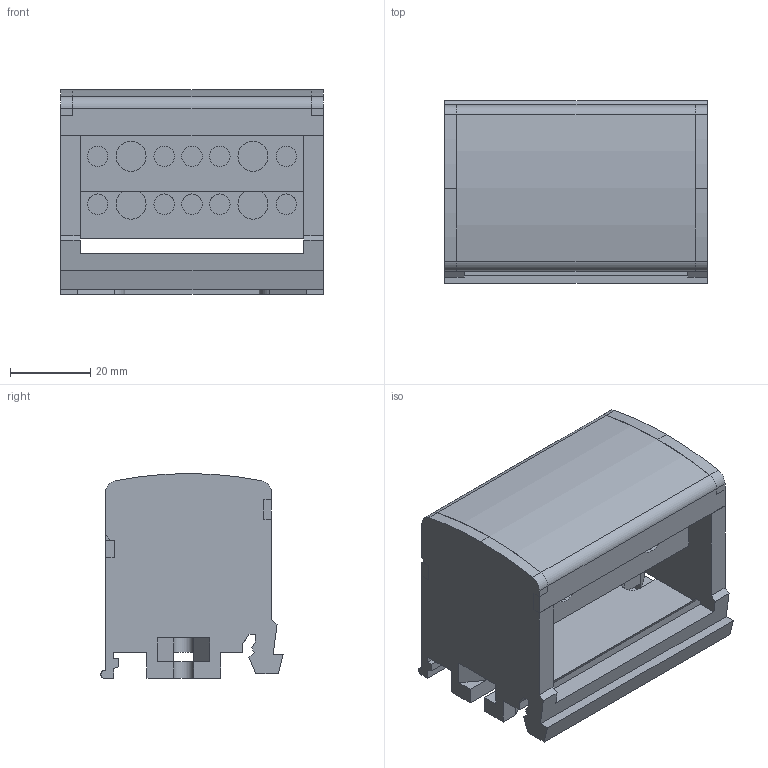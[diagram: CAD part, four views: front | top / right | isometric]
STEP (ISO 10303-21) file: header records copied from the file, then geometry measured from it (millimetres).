
FILE_DESCRIPTION (( 'STEP AP214' ), '1' );
FILE_NAME ('ﾘﾍﾊ 2x7.STEP', '2024-03-07T06:16:27', ( '' ), ( '' ), 'SwSTEP 2.0', 'SolidWorks 2018', '' );
FILE_SCHEMA (( 'AUTOMOTIVE_DESIGN' ));
Length unit declared in the file: millimetre
Products named in the file (3): Êîðïóñ ØÍÊ 2x7; ﾘﾍﾊ 2x7; Êðûøêà ØÍÊ 2x7
Assembly tree (2 placements, depth 2):
  ﾘﾍﾊ 2x7
    Êîðïóñ ØÍÊ 2x7
    Êðûøêà ØÍÊ 2x7
Bounding box: 65.3 x 45.31 x 50.94 mm (x, y, z)
Volume: 49262.3 mm3; surface area: 35855.1 mm2
Topology: 2 solids, 2 shells, 211 faces, 661 edges, 438 vertices
Faces by surface type: plane 131, cylinder 80
Entity records: 8025 total; most frequent: CARTESIAN_POINT 1869, ORIENTED_EDGE 1322, DIRECTION 1199, EDGE_CURVE 661, VECTOR 483, LINE 483, VERTEX_POINT 438, AXIS2_PLACEMENT_3D 358
